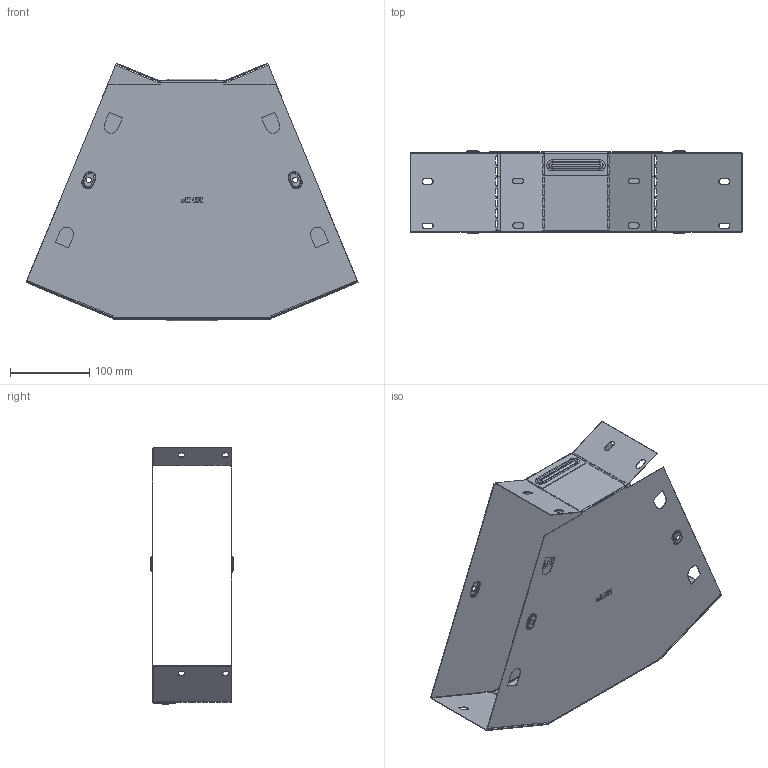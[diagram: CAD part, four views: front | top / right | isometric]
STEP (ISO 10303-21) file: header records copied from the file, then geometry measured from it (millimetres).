
FILE_DESCRIPTION (( 'STEP AP214' ), '1' );
FILE_NAME ('g45100300_捘.STEP', '2019-06-10T08:48:17', ( '砐錪賧瘔蠈錪 Windows' ), ( '' ), 'SwSTEP 2.0', 'SolidWorks 2018', '' );
FILE_SCHEMA (( 'AUTOMOTIVE_DESIGN' ));
Length unit declared in the file: millimetre
Products named in the file (1): g45100300_捘
Bounding box: 419.95 x 103.8 x 325.57 mm (x, y, z)
Volume: 204777.2 mm3; surface area: 516019.8 mm2
Topology: 2 solids, 2 shells, 626 faces, 1762 edges, 1112 vertices
Faces by surface type: plane 358, cylinder 186, torus 64, bspline 18
Entity records: 21102 total; most frequent: CARTESIAN_POINT 4520, ORIENTED_EDGE 3524, DIRECTION 3412, EDGE_CURVE 1762, LINE 1258, VECTOR 1258, VERTEX_POINT 1112, AXIS2_PLACEMENT_3D 1077
